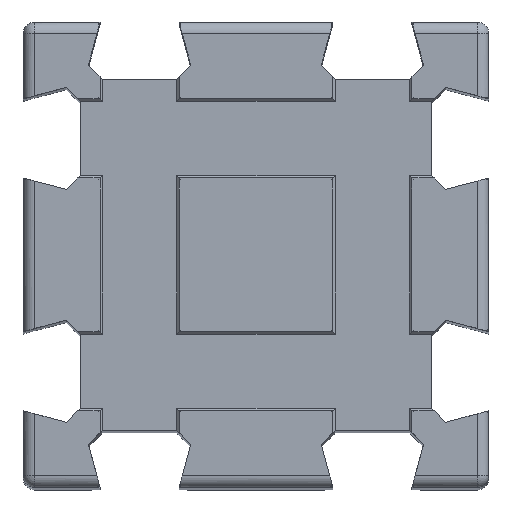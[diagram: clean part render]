
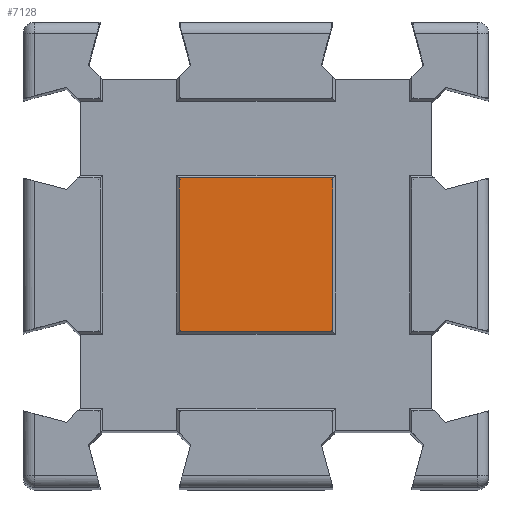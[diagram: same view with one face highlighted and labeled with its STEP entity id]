
A CAD part, top view. The second image highlights one B-rep face of the part: STEP entity #7128.
In plain terms, the highlighted planar face has unit normal (0, 0, 1).
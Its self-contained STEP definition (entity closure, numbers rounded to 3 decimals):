
#252=PLANE('',#7634);
#666=FACE_OUTER_BOUND('',#1084,.T.);
#1084=EDGE_LOOP('',(#5849,#5850,#5851,#5852));
#1814=LINE('',#10951,#2760);
#1826=LINE('',#10973,#2772);
#1837=LINE('',#10997,#2783);
#1839=LINE('',#11001,#2785);
#2760=VECTOR('',#8891,10.);
#2772=VECTOR('',#8915,10.);
#2783=VECTOR('',#8950,10.);
#2785=VECTOR('',#8956,10.);
#3615=VERTEX_POINT('',#10948);
#3616=VERTEX_POINT('',#10950);
#3619=VERTEX_POINT('',#10969);
#3620=VERTEX_POINT('',#10971);
#4430=EDGE_CURVE('',#3616,#3615,#1814,.T.);
#4442=EDGE_CURVE('',#3619,#3620,#1826,.T.);
#4453=EDGE_CURVE('',#3615,#3619,#1837,.T.);
#4455=EDGE_CURVE('',#3620,#3616,#1839,.T.);
#5849=ORIENTED_EDGE('',*,*,#4430,.T.);
#5850=ORIENTED_EDGE('',*,*,#4453,.T.);
#5851=ORIENTED_EDGE('',*,*,#4442,.T.);
#5852=ORIENTED_EDGE('',*,*,#4455,.T.);
#7128=ADVANCED_FACE('',(#666),#252,.T.);
#7634=AXIS2_PLACEMENT_3D('',#11000,#8954,#8955);
#8891=DIRECTION('',(1.,0.,0.));
#8915=DIRECTION('',(-1.,0.,0.));
#8950=DIRECTION('',(0.,1.,0.));
#8954=DIRECTION('center_axis',(0.,0.,1.));
#8955=DIRECTION('ref_axis',(0.,-1.,0.));
#8956=DIRECTION('',(0.,-1.,0.));
#10948=CARTESIAN_POINT('',(18.3,-16.3,21.));
#10950=CARTESIAN_POINT('',(11.7,-16.3,21.));
#10951=CARTESIAN_POINT('',(10.,-16.3,21.));
#10969=CARTESIAN_POINT('',(18.3,-9.7,21.));
#10971=CARTESIAN_POINT('',(11.7,-9.7,21.));
#10973=CARTESIAN_POINT('',(10.,-9.7,21.));
#10997=CARTESIAN_POINT('',(18.3,-18.,21.));
#11000=CARTESIAN_POINT('Origin',(15.,-13.,21.));
#11001=CARTESIAN_POINT('',(11.7,-18.,21.));
